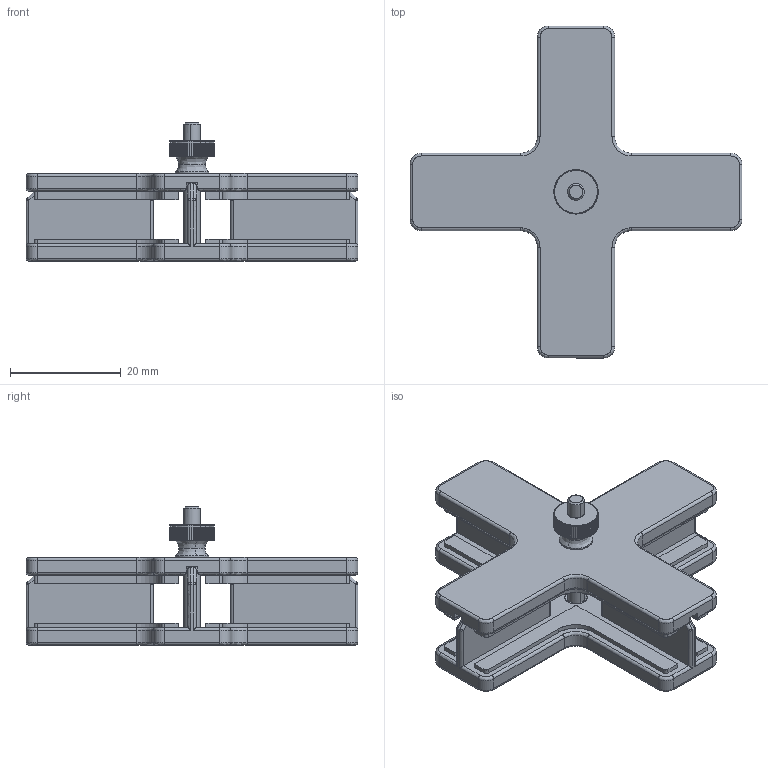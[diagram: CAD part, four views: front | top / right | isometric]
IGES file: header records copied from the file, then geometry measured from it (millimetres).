
Start section: SolidWorks IGES file using analytic representation for surfaces
Global section: file name: C:\Users\tloewy\Documents\TIP\_EVT Design\Drawings\Tiling\RevA\935-0421-00_A_Center Tiling for Flat Configuration.igs; native system: SolidWorks 2016; preprocessor: SolidWorks 2016; author: tloewy; date: 160519.095045; units: millimetre
Bounding box: 60 x 60 x 25 mm (x, y, z)
Surface area: 13474.7 mm2 (no closed solid volume)
Topology: 0 solids, 0 shells, 1000 faces, 6963 edges, 6927 vertices
Faces by surface type: bspline 549, revolution 451
